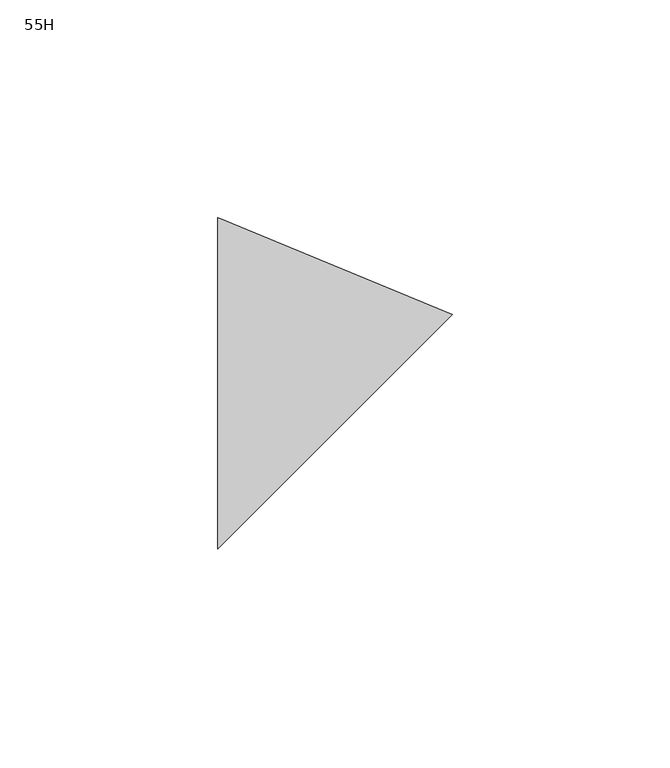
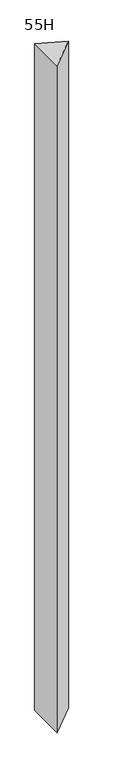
"""IFC4 building model written with IfcOpenShell, lengths in millimetres: furniture geometry, Steelcase - Montage - Junction - V - Same-Height : 55H."""

from ifc_helpers import new_model, si_unit, frame, origin, place, context, project, spatial, polyline, outline, extrude, source, transform, mapped, element, save


def furniture_55h_673f513a(model_context):
    return source(origin(), model_context, "Body", "SweptSolid", [
        extrude(outline(polyline([(457.2, -38.1000015), (457.2, 38.1000015), (511.0815367, 15.7815352), (457.2, -38.1000015)])), frame((0.0, 0.0, 3.9624), z_axis=(0.0, 0.0, 1.0), x_axis=(1.0, 0.0, 0.0)), (0.0, 0.0, 1.0), 1393.0376),
    ])


if __name__ == "__main__":
    model = new_model("IFC4")
    model_context = context("Model", 3, world=origin())
    ifc_project = project(units=[si_unit("LENGTHUNIT", "METRE", prefix="MILLI")], contexts=[model_context])
    site = spatial("IfcSite", under=ifc_project)
    building = spatial("IfcBuilding", under=site)
    placement = place(None, origin())
    furniture_55h_shape = furniture_55h_673f513a(model_context)
    element("IfcFurniture", 1, ObjectType="Steelcase - Montage - Junction - V - Same-Height : 55H", at=placement, inside=building, context=model_context, shape_type="MappedRepresentation", body=[
        mapped(furniture_55h_shape, transform((0.0, 0.0, 0.0), x_axis=(1.0, 0.0, 0.0), y_axis=(0.0, 1.0, 0.0), z_axis=(0.0, 0.0, 1.0))),
    ])
    save(model, "model.ifc")
